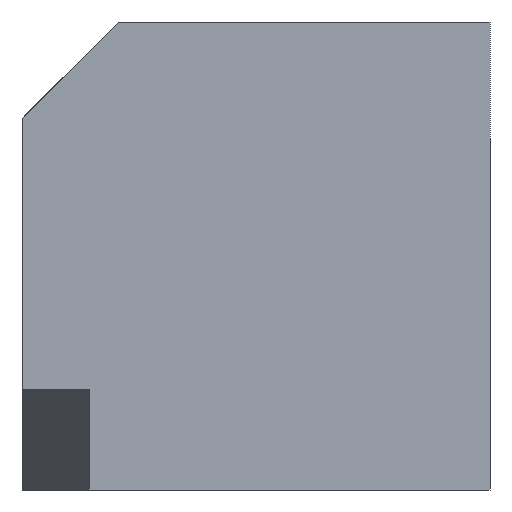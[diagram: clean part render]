
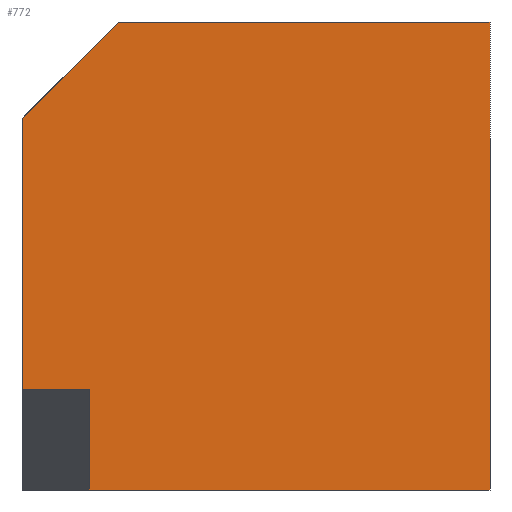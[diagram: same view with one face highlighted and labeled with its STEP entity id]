
A CAD part, left-side view. The second image highlights one B-rep face of the part: STEP entity #772.
In plain terms, the highlighted planar face has unit normal (-1, 0, 0).
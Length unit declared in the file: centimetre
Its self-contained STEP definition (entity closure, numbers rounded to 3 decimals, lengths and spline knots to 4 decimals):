
#21 = CARTESIAN_POINT ( 'NONE',  ( 0., 1000., 214.6605 ) ) ;
#26 = EDGE_CURVE ( 'NONE', #425, #437, #32, .T. ) ;
#32 = LINE ( 'NONE', #21, #38 ) ;
#38 = VECTOR ( 'NONE', #654, 100. ) ;
#61 = DIRECTION ( 'NONE',  ( 0., 0., -1. ) ) ;
#69 = DIRECTION ( 'NONE',  ( 0., -1., 0. ) ) ;
#107 = ORIENTED_EDGE ( 'NONE', *, *, #668, .T. ) ;
#110 = CARTESIAN_POINT ( 'NONE',  ( 0., 856.3211, 214.6605 ) ) ;
#113 = VERTEX_POINT ( 'NONE', #590 ) ;
#125 = DIRECTION ( 'NONE',  ( 0., 0.707, -0.707 ) ) ;
#127 = AXIS2_PLACEMENT_3D ( 'NONE', #629, #626, #187 ) ;
#141 = CARTESIAN_POINT ( 'NONE',  ( 0., 1000., 1000. ) ) ;
#187 = DIRECTION ( 'NONE',  ( 0., 0., -1. ) ) ;
#233 = VERTEX_POINT ( 'NONE', #826 ) ;
#242 = EDGE_CURVE ( 'NONE', #233, #486, #641, .T. ) ;
#244 = LINE ( 'NONE', #491, #636 ) ;
#245 = FACE_OUTER_BOUND ( 'NONE', #376, .T. ) ;
#255 = VECTOR ( 'NONE', #645, 100. ) ;
#258 = CARTESIAN_POINT ( 'NONE',  ( 0., 793.9053, 1000. ) ) ;
#274 = CARTESIAN_POINT ( 'NONE',  ( 0., 1000., 0. ) ) ;
#284 = LINE ( 'NONE', #141, #354 ) ;
#292 = ORIENTED_EDGE ( 'NONE', *, *, #327, .T. ) ;
#293 = EDGE_CURVE ( 'NONE', #617, #113, #323, .T. ) ;
#298 = ORIENTED_EDGE ( 'NONE', *, *, #26, .F. ) ;
#302 = ORIENTED_EDGE ( 'NONE', *, *, #293, .F. ) ;
#323 = LINE ( 'NONE', #574, #748 ) ;
#327 = EDGE_CURVE ( 'NONE', #486, #437, #284, .T. ) ;
#343 = VERTEX_POINT ( 'NONE', #661 ) ;
#354 = VECTOR ( 'NONE', #714, 100. ) ;
#376 = EDGE_LOOP ( 'NONE', ( #298, #646, #107, #302, #798, #555, #292 ) ) ;
#425 = VERTEX_POINT ( 'NONE', #518 ) ;
#437 = VERTEX_POINT ( 'NONE', #777 ) ;
#456 = LINE ( 'NONE', #274, #255 ) ;
#474 = EDGE_CURVE ( 'NONE', #233, #617, #244, .T. ) ;
#486 = VERTEX_POINT ( 'NONE', #749 ) ;
#491 = CARTESIAN_POINT ( 'NONE',  ( 0., 1000., 1000. ) ) ;
#518 = CARTESIAN_POINT ( 'NONE',  ( 0., 856.3211, 214.6605 ) ) ;
#546 = EDGE_CURVE ( 'NONE', #425, #343, #754, .T. ) ;
#554 = DIRECTION ( 'NONE',  ( 0., 0., -1. ) ) ;
#555 = ORIENTED_EDGE ( 'NONE', *, *, #242, .T. ) ;
#573 = VECTOR ( 'NONE', #554, 100. ) ;
#574 = CARTESIAN_POINT ( 'NONE',  ( 0., 0., 1000. ) ) ;
#590 = CARTESIAN_POINT ( 'NONE',  ( 0., 0., 0. ) ) ;
#617 = VERTEX_POINT ( 'NONE', #774 ) ;
#626 = DIRECTION ( 'NONE',  ( 1., 0., 0. ) ) ;
#629 = CARTESIAN_POINT ( 'NONE',  ( 0., 1000., 1000. ) ) ;
#636 = VECTOR ( 'NONE', #69, 100. ) ;
#641 = LINE ( 'NONE', #258, #775 ) ;
#645 = DIRECTION ( 'NONE',  ( 0., -1., 0. ) ) ;
#646 = ORIENTED_EDGE ( 'NONE', *, *, #546, .T. ) ;
#654 = DIRECTION ( 'NONE',  ( 0., 1., 0. ) ) ;
#661 = CARTESIAN_POINT ( 'NONE',  ( 0., 856.3211, 0. ) ) ;
#668 = EDGE_CURVE ( 'NONE', #343, #113, #456, .T. ) ;
#700 = PLANE ( 'NONE',  #127 ) ;
#714 = DIRECTION ( 'NONE',  ( 0., 0., -1. ) ) ;
#748 = VECTOR ( 'NONE', #61, 100. ) ;
#749 = CARTESIAN_POINT ( 'NONE',  ( 0., 1000., 793.9053 ) ) ;
#754 = LINE ( 'NONE', #110, #573 ) ;
#772 = ADVANCED_FACE ( 'NONE', ( #245 ), #700, .F. ) ;
#774 = CARTESIAN_POINT ( 'NONE',  ( 0., 0., 1000. ) ) ;
#775 = VECTOR ( 'NONE', #125, 100. ) ;
#777 = CARTESIAN_POINT ( 'NONE',  ( 0., 1000., 214.6605 ) ) ;
#798 = ORIENTED_EDGE ( 'NONE', *, *, #474, .F. ) ;
#826 = CARTESIAN_POINT ( 'NONE',  ( 0., 793.9053, 1000. ) ) ;
